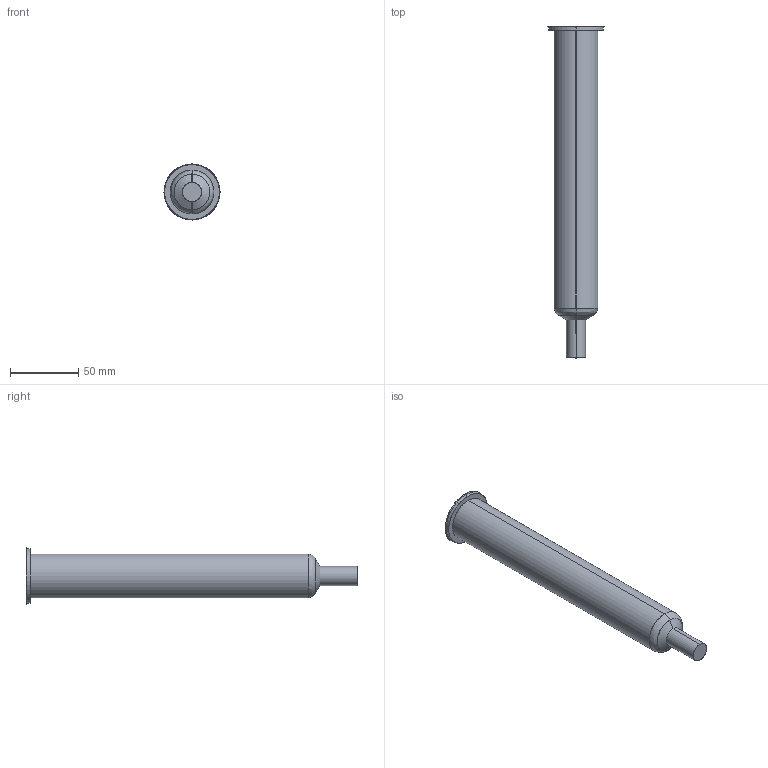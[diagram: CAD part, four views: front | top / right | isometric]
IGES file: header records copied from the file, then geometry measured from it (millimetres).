
Start section: SolidWorks IGES file using analytic representation for surfaces
Global section: file name: C:\Documents and Settings\ws-20\Desktop\TEMPORANEA\Sede UGBE4005-M-A C-214 L-234 P-25.IGS; native system: SolidWorks 2012; preprocessor: SolidWorks 2012; author: ws-20; date: 120306.141623; units: millimetre
Bounding box: 41 x 242.54 x 41 mm (x, y, z)
Surface area: 24995.2 mm2 (no closed solid volume)
Topology: 0 solids, 0 shells, 15 faces, 272 edges, 272 vertices
Faces by surface type: revolution 10, bspline 5
